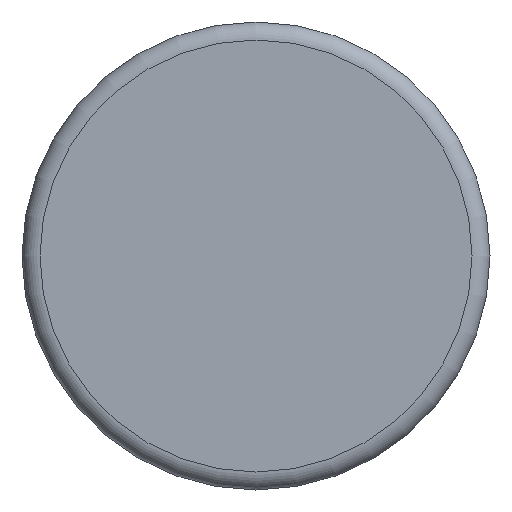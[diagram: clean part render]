
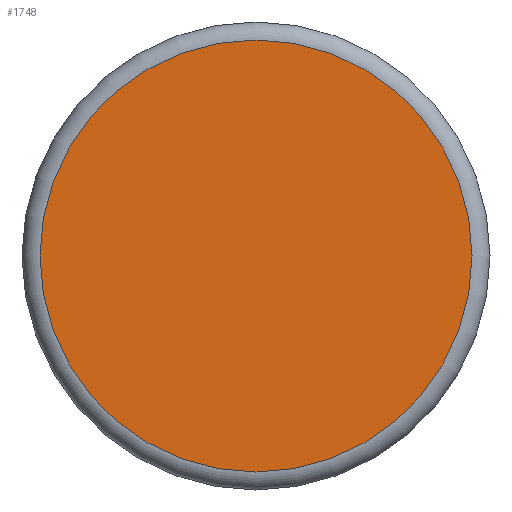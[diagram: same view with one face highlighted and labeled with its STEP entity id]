
A CAD part, front view. The second image highlights one B-rep face of the part: STEP entity #1748.
In plain terms, the highlighted planar face has unit normal (0, -1, 0).
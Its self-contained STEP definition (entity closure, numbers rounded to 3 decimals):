
#474=FACE_OUTER_BOUND('',#578,.T.);
#578=EDGE_LOOP('',(#1602,#1603));
#604=CIRCLE('',#1833,24.);
#605=CIRCLE('',#1834,24.);
#847=VERTEX_POINT('',#4632);
#848=VERTEX_POINT('',#4633);
#1100=EDGE_CURVE('',#847,#848,#604,.T.);
#1101=EDGE_CURVE('',#848,#847,#605,.T.);
#1602=ORIENTED_EDGE('',*,*,#1100,.F.);
#1603=ORIENTED_EDGE('',*,*,#1101,.F.);
#1653=PLANE('',#1832);
#1748=ADVANCED_FACE('',(#474),#1653,.F.);
#1832=AXIS2_PLACEMENT_3D('',#4631,#2107,#2108);
#1833=AXIS2_PLACEMENT_3D('',#4634,#2109,#2110);
#1834=AXIS2_PLACEMENT_3D('',#4635,#2111,#2112);
#2107=DIRECTION('center_axis',(0.,1.,0.));
#2108=DIRECTION('ref_axis',(0.,0.,1.));
#2109=DIRECTION('center_axis',(0.,1.,0.));
#2110=DIRECTION('ref_axis',(1.,0.,0.));
#2111=DIRECTION('center_axis',(0.,1.,0.));
#2112=DIRECTION('ref_axis',(1.,0.,0.));
#4631=CARTESIAN_POINT('Origin',(0.,0.,0.));
#4632=CARTESIAN_POINT('',(-24.,0.,0.));
#4633=CARTESIAN_POINT('',(0.,0.,-24.));
#4634=CARTESIAN_POINT('Origin',(0.,0.,0.));
#4635=CARTESIAN_POINT('Origin',(0.,0.,0.));
